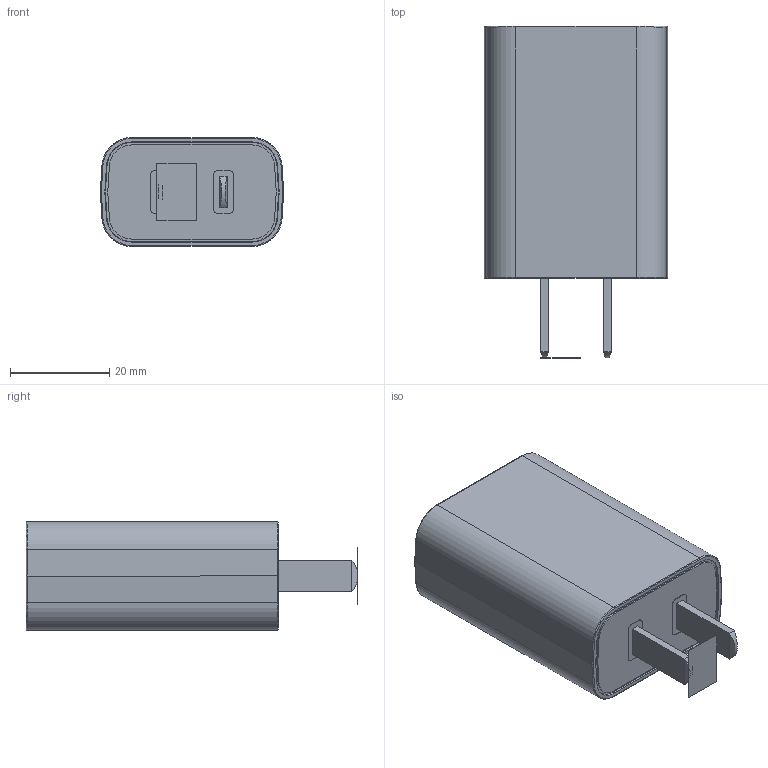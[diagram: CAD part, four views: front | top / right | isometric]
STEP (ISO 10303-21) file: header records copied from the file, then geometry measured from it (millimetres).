
FILE_DESCRIPTION((''),'2;1');
FILE_NAME('VEU10US050-CN','2018-08-16T17:11:50',('jquinto'),(''),'CREO PARAMETRIC BY PTC INC, 2018100','CREO PARAMETRIC BY PTC INC, 2018100','');
FILE_SCHEMA(('CONFIG_CONTROL_DESIGN'));
Length unit declared in the file: millimetre
Products named in the file (1): VEU10US050-CN
Bounding box: 37 x 67 x 22 mm (x, y, z)
Volume: 39409.2 mm3; surface area: 9220.8 mm2
Topology: 1 solids, 15 shells, 412 faces, 1232 edges, 814 vertices
Faces by surface type: plane 282, cylinder 68, cone 38, torus 20, bspline 4
Entity records: 14332 total; most frequent: CARTESIAN_POINT 3082, ORIENTED_EDGE 2432, DIRECTION 2180, EDGE_CURVE 1232, VECTOR 890, LINE 890, VERTEX_POINT 814, AXIS2_PLACEMENT_3D 645
